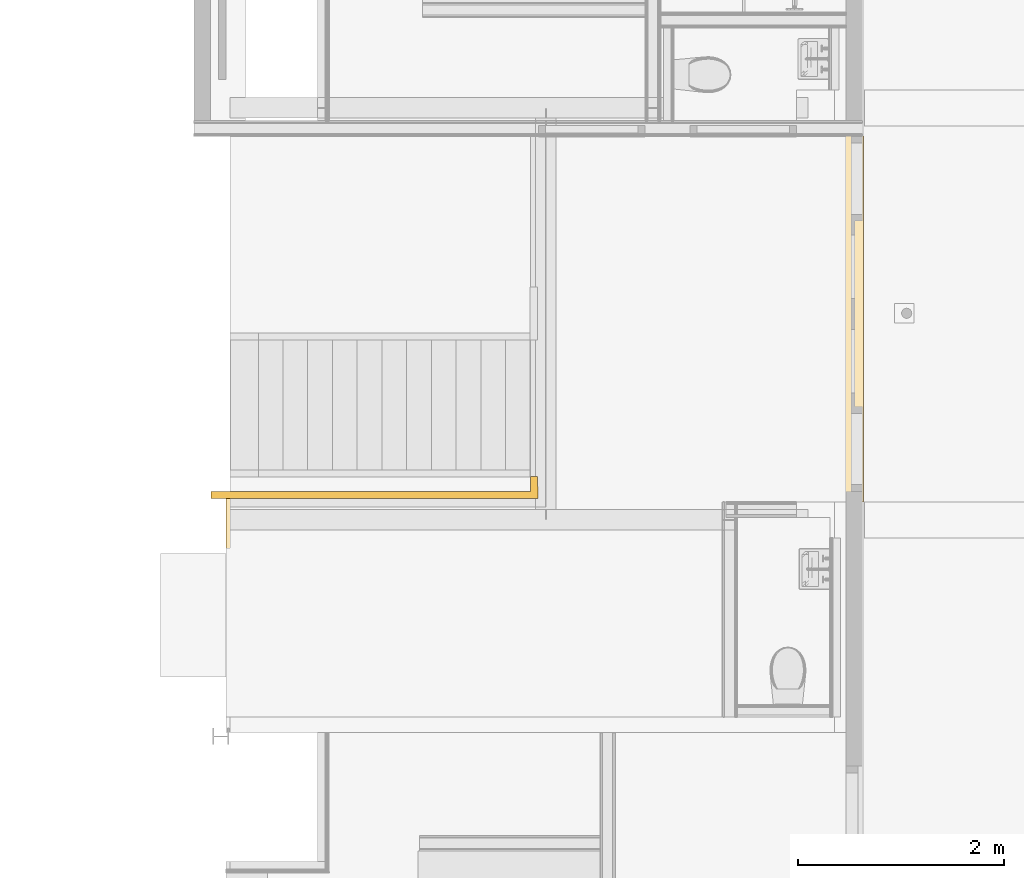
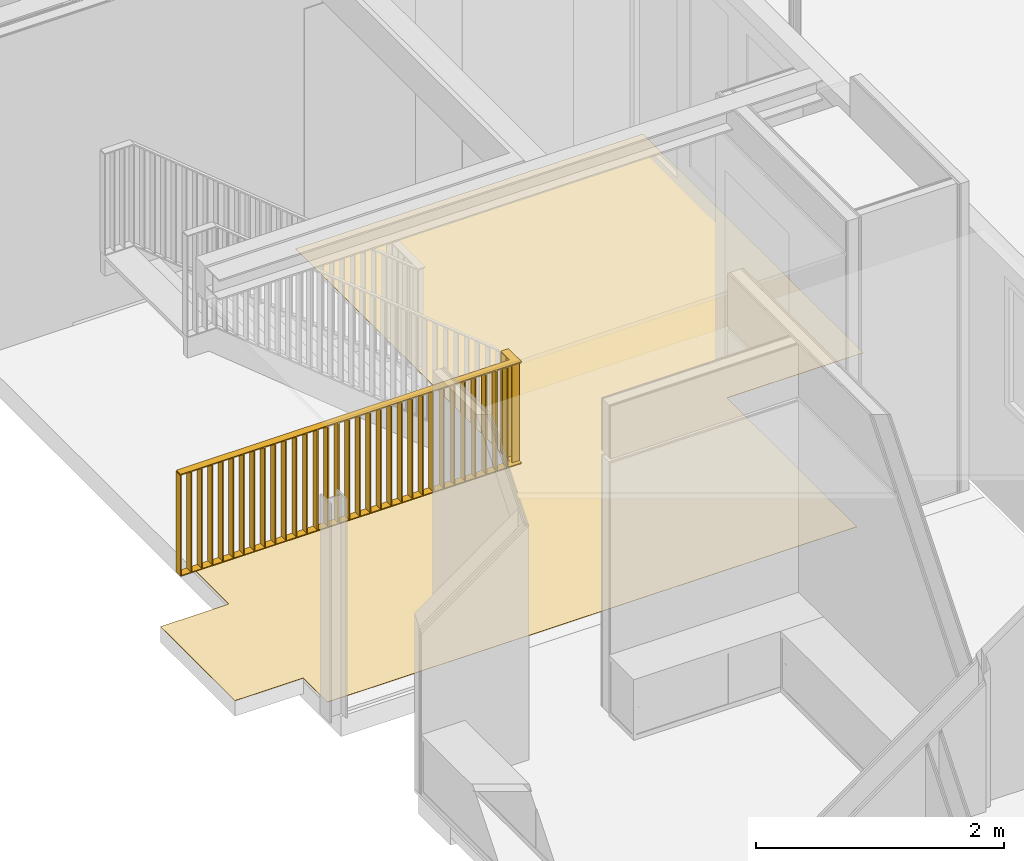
# One storey, part 23 of 35: 1 covering, 1 railing.
"""IFC2X3 building model written with IfcOpenShell, lengths in millimetres."""

from ifc_helpers import new_model, entity, si_unit, converted_unit, derived_unit, money_unit, direction, frame, origin_with_axes, place, context, subcontext, project, spatial, faceted_brep, material, material_list, type_object, element, save


model = new_model("IFC2X3")

# Units and contexts
model_context = context("Model", 3, precision=0.01, world=origin_with_axes(), true_north=direction((0.0, 1.0)))
body_context = subcontext(model_context, "Body", "Model", "MODEL_VIEW")
ifc_project = project(units=[si_unit("LENGTHUNIT", "METRE", prefix="MILLI"), si_unit("AREAUNIT", "SQUARE_METRE"), si_unit("VOLUMEUNIT", "CUBIC_METRE"), converted_unit("PLANEANGLEUNIT", "DEGREE", entity("IfcPlaneAngleMeasure", 0.0174532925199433), si_unit("PLANEANGLEUNIT", "RADIAN"), dimensions=[0, 0, 0, 0, 0, 0, 0]), money_unit("EUR"), converted_unit("TIMEUNIT", "Year", entity("IfcTimeMeasure", 31557600.0), si_unit("TIMEUNIT", "SECOND"), dimensions=[0, 0, 1, 0, 0, 0, 0]), si_unit("MASSUNIT", "GRAM", prefix="KILO"), si_unit("THERMODYNAMICTEMPERATUREUNIT", "DEGREE_CELSIUS"), si_unit("LUMINOUSINTENSITYUNIT", "LUMEN"), si_unit("ENERGYUNIT", "JOULE", prefix="MEGA"), derived_unit("THERMALCONDUCTANCEUNIT", [(si_unit("POWERUNIT", "WATT"), 1), (si_unit("LENGTHUNIT", "METRE"), -1), (si_unit("THERMODYNAMICTEMPERATUREUNIT", "KELVIN"), -1)]), derived_unit("SPECIFICHEATCAPACITYUNIT", [(si_unit("ENERGYUNIT", "JOULE"), 1), (si_unit("MASSUNIT", "GRAM", prefix="KILO"), -1), (si_unit("THERMODYNAMICTEMPERATUREUNIT", "KELVIN"), -1)]), derived_unit("MASSDENSITYUNIT", [(si_unit("MASSUNIT", "GRAM", prefix="KILO"), 1), (si_unit("VOLUMEUNIT", "CUBIC_METRE"), -1)])], contexts=[model_context])

# Site, building, storey
site_placement = place(None, origin_with_axes())
site = spatial("IfcSite", under=ifc_project, at=site_placement, Name="<site naam>", CompositionType="ELEMENT")
building_placement = place(site_placement, origin_with_axes())
building = spatial("IfcBuilding", under=site, at=building_placement, Name="<Naam gebouw>", CompositionType="ELEMENT")
storey_placement = place(building_placement, frame((0.0, 0.0, 6345.0), z_axis=(0.0, 0.0, 1.0), x_axis=(1.0, 0.0, 0.0)))
storey = spatial("IfcBuildingStorey", under=building, at=storey_placement, Name="02 2e tussenverdieping", CompositionType="ELEMENT", Elevation=6345.0)

# Railing
ifc_material_1 = material(Name="staal balustrade")
ifc_material_list = material_list([ifc_material_1, ifc_material_1, ifc_material_1, ifc_material_1, ifc_material_1, ifc_material_1, ifc_material_1, ifc_material_1, ifc_material_1, ifc_material_1, ifc_material_1, ifc_material_1, ifc_material_1, ifc_material_1, ifc_material_1, ifc_material_1, ifc_material_1, ifc_material_1, ifc_material_1, ifc_material_1, ifc_material_1, ifc_material_1, ifc_material_1, ifc_material_1, ifc_material_1, ifc_material_1, ifc_material_1, ifc_material_1, ifc_material_1, ifc_material_1, ifc_material_1, ifc_material_1, ifc_material_1, ifc_material_1, ifc_material_1, ifc_material_1, ifc_material_1, ifc_material_1, ifc_material_1])
railing_type = type_object("IfcRailingType", Name="Railing Type", PredefinedType="NOTDEFINED")
railing_placement = place(storey_placement, frame((54814.39453125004, 10255.40265548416, 0.0), z_axis=(0.0, 0.0, 1.0), x_axis=(1.0, 0.0, 0.0)))
element("IfcRailing", 1, at=railing_placement, inside=storey, type_object=railing_type, material=ifc_material_list, Name="34_Reling_", PredefinedType="NOTDEFINED", context=body_context, shape_type="Brep", body=[
    faceted_brep([(277.6979470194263, -1845.402332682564, 14.99999999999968), (347.6940240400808, -1844.661251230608, 14.99999999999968), (347.6940240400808, -1844.661251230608, 995.0000000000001), (277.6979470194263, -1845.402332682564, 995.0000000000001), (277.5920782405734, -1835.402893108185, 14.99999999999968), (347.5881552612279, -1834.661811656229, 14.99999999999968), (347.5881552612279, -1834.661811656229, 995.0000000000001), (277.5920782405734, -1835.402893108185, 995.0000000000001)], [[[0, 1, 2, 3]], [[0, 4, 5, 1]], [[1, 5, 6, 2]], [[3, 2, 6, 7]], [[4, 0, 3, 7]], [[5, 4, 7, 6]]]),
    faceted_brep([(279.5546780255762, -2020.772915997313, 15.00000000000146), (349.5507550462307, -2020.031834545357, 15.00000000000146), (349.5507550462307, -2020.031834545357, 995.0000000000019), (279.5546780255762, -2020.772915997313, 995.0000000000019), (279.4488092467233, -2010.773476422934, 15.00000000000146), (349.4448862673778, -2010.032394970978, 15.00000000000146), (349.4448862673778, -2010.032394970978, 995.0000000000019), (279.4488092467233, -2010.773476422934, 995.0000000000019)], [[[0, 1, 2, 3]], [[0, 4, 5, 1]], [[1, 5, 6, 2]], [[3, 2, 6, 7]], [[4, 0, 3, 7]], [[5, 4, 7, 6]]]),
    faceted_brep([(-2824.394382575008, -1980.402655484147, 15.00000000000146), (-2824.394382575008, -2050.402655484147, 15.00000000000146), (-2824.394382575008, -2050.402655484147, 995.0000000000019), (-2824.394382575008, -1980.402655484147, 995.0000000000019), (-2814.394382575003, -1980.402655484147, 15.00000000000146), (-2814.394382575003, -2050.402655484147, 15.00000000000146), (-2814.394382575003, -2050.402655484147, 995.0000000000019), (-2814.394382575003, -1980.402655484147, 995.0000000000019)], [[[0, 1, 2, 3]], [[0, 4, 5, 1]], [[1, 5, 6, 2]], [[3, 2, 6, 7]], [[4, 0, 3, 7]], [[5, 4, 7, 6]]]),
    faceted_brep([(277.6450126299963, -1840.402612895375, 1005.0), (277.6450126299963, -1840.402612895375, 995.0000000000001), (279.1272590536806, -1980.40265548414, 995.0000000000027), (279.1272590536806, -1980.40265548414, 1005.000000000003), (347.6410896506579, -1839.661531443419, 1005.0), (347.6410896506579, -1839.661531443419, 995.0000000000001), (349.8723052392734, -2050.40265548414, 995.0000000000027), (349.8723052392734, -2050.40265548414, 1005.000000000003)], [[[0, 1, 2, 3]], [[0, 4, 5, 1]], [[1, 5, 6, 2]], [[3, 2, 6, 7]], [[4, 0, 3, 7]], [[5, 4, 7, 6]]]),
    faceted_brep([(277.6450126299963, -1840.402612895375, 9.999999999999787), (277.6450126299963, -1840.402612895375, 0.0), (279.1272590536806, -1980.40265548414, 0.0), (279.1272590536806, -1980.40265548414, 10.00000000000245), (347.6410896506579, -1839.661531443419, 9.999999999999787), (347.6410896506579, -1839.661531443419, 0.0), (349.8723052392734, -2050.40265548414, 0.0), (349.8723052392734, -2050.40265548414, 10.00000000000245)], [[[0, 1, 2, 3]], [[0, 4, 5, 1]], [[1, 5, 6, 2]], [[3, 2, 6, 7]], [[4, 0, 3, 7]], [[5, 4, 7, 6]]]),
    faceted_brep([(278.6263125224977, -1933.087624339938, 15.00000000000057), (348.6223895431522, -1932.346542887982, 15.00000000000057), (348.6223895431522, -1932.346542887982, 995.000000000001), (278.6263125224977, -1933.087624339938, 995.000000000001), (278.5204437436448, -1923.088184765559, 15.00000000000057), (348.5165207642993, -1922.347103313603, 15.00000000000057), (348.5165207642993, -1922.347103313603, 995.000000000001), (278.5204437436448, -1923.088184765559, 995.000000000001)], [[[0, 1, 2, 3]], [[0, 4, 5, 1]], [[1, 5, 6, 2]], [[3, 2, 6, 7]], [[4, 0, 3, 7]], [[5, 4, 7, 6]]]),
    faceted_brep([(279.1272590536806, -1980.402655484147, 1005.000000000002), (279.1272590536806, -1980.402655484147, 995.0000000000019), (-2819.394382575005, -1980.402655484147, 995.0000000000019), (-2819.394382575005, -1980.402655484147, 1005.000000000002), (349.8723052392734, -2050.402655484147, 1005.000000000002), (349.8723052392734, -2050.402655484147, 995.0000000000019), (-2819.394382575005, -2050.402655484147, 995.0000000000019), (-2819.394382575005, -2050.402655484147, 1005.000000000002)], [[[0, 1, 2, 3]], [[0, 4, 5, 1]], [[1, 5, 6, 2]], [[3, 2, 6, 7]], [[4, 0, 3, 7]], [[5, 4, 7, 6]]]),
    faceted_brep([(279.1272590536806, -1980.402655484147, 10.00000000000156), (279.1272590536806, -1980.402655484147, 0.0), (-2819.394382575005, -1980.402655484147, 0.0), (-2819.394382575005, -1980.402655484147, 10.00000000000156), (349.8723052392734, -2050.402655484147, 10.00000000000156), (349.8723052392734, -2050.402655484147, 0.0), (-2819.394382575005, -2050.402655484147, 0.0), (-2819.394382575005, -2050.402655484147, 10.00000000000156)], [[[0, 1, 2, 3]], [[0, 4, 5, 1]], [[1, 5, 6, 2]], [[3, 2, 6, 7]], [[4, 0, 3, 7]], [[5, 4, 7, 6]]]),
    faceted_brep([(211.5655894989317, -1980.402655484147, 15.00000000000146), (211.5655894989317, -2050.402655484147, 15.00000000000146), (211.5655894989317, -2050.402655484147, 995.0000000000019), (211.5655894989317, -1980.402655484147, 995.0000000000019), (221.5655894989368, -1980.402655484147, 15.00000000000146), (221.5655894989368, -2050.402655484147, 15.00000000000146), (221.5655894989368, -2050.402655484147, 995.0000000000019), (221.5655894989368, -1980.402655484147, 995.0000000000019)], [[[0, 1, 2, 3]], [[0, 4, 5, 1]], [[1, 5, 6, 2]], [[3, 2, 6, 7]], [[4, 0, 3, 7]], [[5, 4, 7, 6]]]),
    faceted_brep([(113.6313968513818, -1980.402655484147, 15.00000000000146), (113.6313968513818, -2050.402655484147, 15.00000000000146), (113.6313968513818, -2050.402655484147, 995.0000000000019), (113.6313968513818, -1980.402655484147, 995.0000000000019), (123.6313968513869, -1980.402655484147, 15.00000000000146), (123.6313968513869, -2050.402655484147, 15.00000000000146), (123.6313968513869, -2050.402655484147, 995.0000000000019), (123.6313968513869, -1980.402655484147, 995.0000000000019)], [[[0, 1, 2, 3]], [[0, 4, 5, 1]], [[1, 5, 6, 2]], [[3, 2, 6, 7]], [[4, 0, 3, 7]], [[5, 4, 7, 6]]]),
    faceted_brep([(15.69720420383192, -1980.402655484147, 15.00000000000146), (15.69720420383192, -2050.402655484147, 15.00000000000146), (15.69720420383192, -2050.402655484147, 995.0000000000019), (15.69720420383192, -1980.402655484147, 995.0000000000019), (25.69720420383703, -1980.402655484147, 15.00000000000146), (25.69720420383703, -2050.402655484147, 15.00000000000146), (25.69720420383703, -2050.402655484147, 995.0000000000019), (25.69720420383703, -1980.402655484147, 995.0000000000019)], [[[0, 1, 2, 3]], [[0, 4, 5, 1]], [[1, 5, 6, 2]], [[3, 2, 6, 7]], [[4, 0, 3, 7]], [[5, 4, 7, 6]]]),
    faceted_brep([(-82.23698844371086, -1980.402655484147, 15.00000000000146), (-82.23698844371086, -2050.402655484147, 15.00000000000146), (-82.23698844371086, -2050.402655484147, 995.0000000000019), (-82.23698844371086, -1980.402655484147, 995.0000000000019), (-72.23698844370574, -1980.402655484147, 15.00000000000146), (-72.23698844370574, -2050.402655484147, 15.00000000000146), (-72.23698844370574, -2050.402655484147, 995.0000000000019), (-72.23698844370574, -1980.402655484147, 995.0000000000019)], [[[0, 1, 2, 3]], [[0, 4, 5, 1]], [[1, 5, 6, 2]], [[3, 2, 6, 7]], [[4, 0, 3, 7]], [[5, 4, 7, 6]]]),
    faceted_brep([(-180.1711810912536, -1980.402655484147, 15.00000000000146), (-180.1711810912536, -2050.402655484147, 15.00000000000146), (-180.1711810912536, -2050.402655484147, 995.0000000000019), (-180.1711810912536, -1980.402655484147, 995.0000000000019), (-170.1711810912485, -1980.402655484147, 15.00000000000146), (-170.1711810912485, -2050.402655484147, 15.00000000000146), (-170.1711810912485, -2050.402655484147, 995.0000000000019), (-170.1711810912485, -1980.402655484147, 995.0000000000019)], [[[0, 1, 2, 3]], [[0, 4, 5, 1]], [[1, 5, 6, 2]], [[3, 2, 6, 7]], [[4, 0, 3, 7]], [[5, 4, 7, 6]]]),
    faceted_brep([(-278.1053737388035, -1980.402655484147, 15.00000000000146), (-278.1053737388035, -2050.402655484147, 15.00000000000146), (-278.1053737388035, -2050.402655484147, 995.0000000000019), (-278.1053737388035, -1980.402655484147, 995.0000000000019), (-268.1053737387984, -1980.402655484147, 15.00000000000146), (-268.1053737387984, -2050.402655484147, 15.00000000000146), (-268.1053737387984, -2050.402655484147, 995.0000000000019), (-268.1053737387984, -1980.402655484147, 995.0000000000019)], [[[0, 1, 2, 3]], [[0, 4, 5, 1]], [[1, 5, 6, 2]], [[3, 2, 6, 7]], [[4, 0, 3, 7]], [[5, 4, 7, 6]]]),
    faceted_brep([(-376.0395663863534, -1980.402655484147, 15.00000000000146), (-376.0395663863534, -2050.402655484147, 15.00000000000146), (-376.0395663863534, -2050.402655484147, 995.0000000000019), (-376.0395663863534, -1980.402655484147, 995.0000000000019), (-366.0395663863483, -1980.402655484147, 15.00000000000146), (-366.0395663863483, -2050.402655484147, 15.00000000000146), (-366.0395663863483, -2050.402655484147, 995.0000000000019), (-366.0395663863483, -1980.402655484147, 995.0000000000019)], [[[0, 1, 2, 3]], [[0, 4, 5, 1]], [[1, 5, 6, 2]], [[3, 2, 6, 7]], [[4, 0, 3, 7]], [[5, 4, 7, 6]]]),
    faceted_brep([(-473.9737590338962, -1980.402655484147, 15.00000000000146), (-473.9737590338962, -2050.402655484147, 15.00000000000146), (-473.9737590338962, -2050.402655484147, 995.0000000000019), (-473.9737590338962, -1980.402655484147, 995.0000000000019), (-463.973759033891, -1980.402655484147, 15.00000000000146), (-463.973759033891, -2050.402655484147, 15.00000000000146), (-463.973759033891, -2050.402655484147, 995.0000000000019), (-463.973759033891, -1980.402655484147, 995.0000000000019)], [[[0, 1, 2, 3]], [[0, 4, 5, 1]], [[1, 5, 6, 2]], [[3, 2, 6, 7]], [[4, 0, 3, 7]], [[5, 4, 7, 6]]]),
    faceted_brep([(-571.9079516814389, -1980.402655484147, 15.00000000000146), (-571.9079516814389, -2050.402655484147, 15.00000000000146), (-571.9079516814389, -2050.402655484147, 995.0000000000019), (-571.9079516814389, -1980.402655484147, 995.0000000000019), (-561.9079516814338, -1980.402655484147, 15.00000000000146), (-561.9079516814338, -2050.402655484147, 15.00000000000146), (-561.9079516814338, -2050.402655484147, 995.0000000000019), (-561.9079516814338, -1980.402655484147, 995.0000000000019)], [[[0, 1, 2, 3]], [[0, 4, 5, 1]], [[1, 5, 6, 2]], [[3, 2, 6, 7]], [[4, 0, 3, 7]], [[5, 4, 7, 6]]]),
    faceted_brep([(-669.8421443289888, -1980.402655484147, 15.00000000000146), (-669.8421443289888, -2050.402655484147, 15.00000000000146), (-669.8421443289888, -2050.402655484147, 995.0000000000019), (-669.8421443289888, -1980.402655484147, 995.0000000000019), (-659.8421443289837, -1980.402655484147, 15.00000000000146), (-659.8421443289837, -2050.402655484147, 15.00000000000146), (-659.8421443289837, -2050.402655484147, 995.0000000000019), (-659.8421443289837, -1980.402655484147, 995.0000000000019)], [[[0, 1, 2, 3]], [[0, 4, 5, 1]], [[1, 5, 6, 2]], [[3, 2, 6, 7]], [[4, 0, 3, 7]], [[5, 4, 7, 6]]]),
    faceted_brep([(-767.7763369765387, -1980.402655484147, 15.00000000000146), (-767.7763369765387, -2050.402655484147, 15.00000000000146), (-767.7763369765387, -2050.402655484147, 995.0000000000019), (-767.7763369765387, -1980.402655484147, 995.0000000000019), (-757.7763369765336, -1980.402655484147, 15.00000000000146), (-757.7763369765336, -2050.402655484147, 15.00000000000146), (-757.7763369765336, -2050.402655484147, 995.0000000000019), (-757.7763369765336, -1980.402655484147, 995.0000000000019)], [[[0, 1, 2, 3]], [[0, 4, 5, 1]], [[1, 5, 6, 2]], [[3, 2, 6, 7]], [[4, 0, 3, 7]], [[5, 4, 7, 6]]]),
    faceted_brep([(-865.7105296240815, -1980.402655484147, 15.00000000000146), (-865.7105296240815, -2050.402655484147, 15.00000000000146), (-865.7105296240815, -2050.402655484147, 995.0000000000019), (-865.7105296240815, -1980.402655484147, 995.0000000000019), (-855.7105296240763, -1980.402655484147, 15.00000000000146), (-855.7105296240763, -2050.402655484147, 15.00000000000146), (-855.7105296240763, -2050.402655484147, 995.0000000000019), (-855.7105296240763, -1980.402655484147, 995.0000000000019)], [[[0, 1, 2, 3]], [[0, 4, 5, 1]], [[1, 5, 6, 2]], [[3, 2, 6, 7]], [[4, 0, 3, 7]], [[5, 4, 7, 6]]]),
    faceted_brep([(-963.6447222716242, -1980.402655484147, 15.00000000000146), (-963.6447222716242, -2050.402655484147, 15.00000000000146), (-963.6447222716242, -2050.402655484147, 995.0000000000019), (-963.6447222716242, -1980.402655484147, 995.0000000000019), (-953.6447222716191, -1980.402655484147, 15.00000000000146), (-953.6447222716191, -2050.402655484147, 15.00000000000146), (-953.6447222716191, -2050.402655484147, 995.0000000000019), (-953.6447222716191, -1980.402655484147, 995.0000000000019)], [[[0, 1, 2, 3]], [[0, 4, 5, 1]], [[1, 5, 6, 2]], [[3, 2, 6, 7]], [[4, 0, 3, 7]], [[5, 4, 7, 6]]]),
    faceted_brep([(-1061.578914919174, -1980.402655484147, 15.00000000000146), (-1061.578914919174, -2050.402655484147, 15.00000000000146), (-1061.578914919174, -2050.402655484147, 995.0000000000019), (-1061.578914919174, -1980.402655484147, 995.0000000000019), (-1051.578914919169, -1980.402655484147, 15.00000000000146), (-1051.578914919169, -2050.402655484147, 15.00000000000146), (-1051.578914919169, -2050.402655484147, 995.0000000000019), (-1051.578914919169, -1980.402655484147, 995.0000000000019)], [[[0, 1, 2, 3]], [[0, 4, 5, 1]], [[1, 5, 6, 2]], [[3, 2, 6, 7]], [[4, 0, 3, 7]], [[5, 4, 7, 6]]]),
    faceted_brep([(-1159.513107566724, -1980.402655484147, 15.00000000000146), (-1159.513107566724, -2050.402655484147, 15.00000000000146), (-1159.513107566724, -2050.402655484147, 995.0000000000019), (-1159.513107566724, -1980.402655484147, 995.0000000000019), (-1149.513107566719, -1980.402655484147, 15.00000000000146), (-1149.513107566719, -2050.402655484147, 15.00000000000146), (-1149.513107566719, -2050.402655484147, 995.0000000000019), (-1149.513107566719, -1980.402655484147, 995.0000000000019)], [[[0, 1, 2, 3]], [[0, 4, 5, 1]], [[1, 5, 6, 2]], [[3, 2, 6, 7]], [[4, 0, 3, 7]], [[5, 4, 7, 6]]]),
    faceted_brep([(-1257.447300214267, -1980.402655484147, 15.00000000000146), (-1257.447300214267, -2050.402655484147, 15.00000000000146), (-1257.447300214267, -2050.402655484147, 995.0000000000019), (-1257.447300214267, -1980.402655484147, 995.0000000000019), (-1247.447300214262, -1980.402655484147, 15.00000000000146), (-1247.447300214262, -2050.402655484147, 15.00000000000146), (-1247.447300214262, -2050.402655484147, 995.0000000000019), (-1247.447300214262, -1980.402655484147, 995.0000000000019)], [[[0, 1, 2, 3]], [[0, 4, 5, 1]], [[1, 5, 6, 2]], [[3, 2, 6, 7]], [[4, 0, 3, 7]], [[5, 4, 7, 6]]]),
    faceted_brep([(-1355.381492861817, -1980.402655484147, 15.00000000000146), (-1355.381492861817, -2050.402655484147, 15.00000000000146), (-1355.381492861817, -2050.402655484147, 995.0000000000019), (-1355.381492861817, -1980.402655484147, 995.0000000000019), (-1345.381492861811, -1980.402655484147, 15.00000000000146), (-1345.381492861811, -2050.402655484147, 15.00000000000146), (-1345.381492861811, -2050.402655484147, 995.0000000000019), (-1345.381492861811, -1980.402655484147, 995.0000000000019)], [[[0, 1, 2, 3]], [[0, 4, 5, 1]], [[1, 5, 6, 2]], [[3, 2, 6, 7]], [[4, 0, 3, 7]], [[5, 4, 7, 6]]]),
    faceted_brep([(-1453.315685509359, -1980.402655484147, 15.00000000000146), (-1453.315685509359, -2050.402655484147, 15.00000000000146), (-1453.315685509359, -2050.402655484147, 995.0000000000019), (-1453.315685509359, -1980.402655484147, 995.0000000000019), (-1443.315685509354, -1980.402655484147, 15.00000000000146), (-1443.315685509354, -2050.402655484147, 15.00000000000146), (-1443.315685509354, -2050.402655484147, 995.0000000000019), (-1443.315685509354, -1980.402655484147, 995.0000000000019)], [[[0, 1, 2, 3]], [[0, 4, 5, 1]], [[1, 5, 6, 2]], [[3, 2, 6, 7]], [[4, 0, 3, 7]], [[5, 4, 7, 6]]]),
    faceted_brep([(-1551.249878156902, -1980.402655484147, 15.00000000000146), (-1551.249878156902, -2050.402655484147, 15.00000000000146), (-1551.249878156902, -2050.402655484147, 995.0000000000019), (-1551.249878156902, -1980.402655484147, 995.0000000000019), (-1541.249878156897, -1980.402655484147, 15.00000000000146), (-1541.249878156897, -2050.402655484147, 15.00000000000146), (-1541.249878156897, -2050.402655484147, 995.0000000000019), (-1541.249878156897, -1980.402655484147, 995.0000000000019)], [[[0, 1, 2, 3]], [[0, 4, 5, 1]], [[1, 5, 6, 2]], [[3, 2, 6, 7]], [[4, 0, 3, 7]], [[5, 4, 7, 6]]]),
    faceted_brep([(-1649.184070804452, -1980.402655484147, 15.00000000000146), (-1649.184070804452, -2050.402655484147, 15.00000000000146), (-1649.184070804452, -2050.402655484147, 995.0000000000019), (-1649.184070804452, -1980.402655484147, 995.0000000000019), (-1639.184070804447, -1980.402655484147, 15.00000000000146), (-1639.184070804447, -2050.402655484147, 15.00000000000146), (-1639.184070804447, -2050.402655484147, 995.0000000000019), (-1639.184070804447, -1980.402655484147, 995.0000000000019)], [[[0, 1, 2, 3]], [[0, 4, 5, 1]], [[1, 5, 6, 2]], [[3, 2, 6, 7]], [[4, 0, 3, 7]], [[5, 4, 7, 6]]]),
    faceted_brep([(-1747.118263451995, -1980.402655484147, 15.00000000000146), (-1747.118263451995, -2050.402655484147, 15.00000000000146), (-1747.118263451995, -2050.402655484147, 995.0000000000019), (-1747.118263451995, -1980.402655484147, 995.0000000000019), (-1737.11826345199, -1980.402655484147, 15.00000000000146), (-1737.11826345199, -2050.402655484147, 15.00000000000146), (-1737.11826345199, -2050.402655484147, 995.0000000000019), (-1737.11826345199, -1980.402655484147, 995.0000000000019)], [[[0, 1, 2, 3]], [[0, 4, 5, 1]], [[1, 5, 6, 2]], [[3, 2, 6, 7]], [[4, 0, 3, 7]], [[5, 4, 7, 6]]]),
    faceted_brep([(-1845.052456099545, -1980.402655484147, 15.00000000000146), (-1845.052456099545, -2050.402655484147, 15.00000000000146), (-1845.052456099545, -2050.402655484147, 995.0000000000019), (-1845.052456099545, -1980.402655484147, 995.0000000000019), (-1835.05245609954, -1980.402655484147, 15.00000000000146), (-1835.05245609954, -2050.402655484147, 15.00000000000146), (-1835.05245609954, -2050.402655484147, 995.0000000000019), (-1835.05245609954, -1980.402655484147, 995.0000000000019)], [[[0, 1, 2, 3]], [[0, 4, 5, 1]], [[1, 5, 6, 2]], [[3, 2, 6, 7]], [[4, 0, 3, 7]], [[5, 4, 7, 6]]]),
    faceted_brep([(-1942.986648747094, -1980.402655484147, 15.00000000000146), (-1942.986648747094, -2050.402655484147, 15.00000000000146), (-1942.986648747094, -2050.402655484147, 995.0000000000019), (-1942.986648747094, -1980.402655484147, 995.0000000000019), (-1932.986648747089, -1980.402655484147, 15.00000000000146), (-1932.986648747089, -2050.402655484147, 15.00000000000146), (-1932.986648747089, -2050.402655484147, 995.0000000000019), (-1932.986648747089, -1980.402655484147, 995.0000000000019)], [[[0, 1, 2, 3]], [[0, 4, 5, 1]], [[1, 5, 6, 2]], [[3, 2, 6, 7]], [[4, 0, 3, 7]], [[5, 4, 7, 6]]]),
    faceted_brep([(-2040.920841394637, -1980.402655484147, 15.00000000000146), (-2040.920841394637, -2050.402655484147, 15.00000000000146), (-2040.920841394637, -2050.402655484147, 995.0000000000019), (-2040.920841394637, -1980.402655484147, 995.0000000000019), (-2030.920841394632, -1980.402655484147, 15.00000000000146), (-2030.920841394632, -2050.402655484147, 15.00000000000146), (-2030.920841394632, -2050.402655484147, 995.0000000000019), (-2030.920841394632, -1980.402655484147, 995.0000000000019)], [[[0, 1, 2, 3]], [[0, 4, 5, 1]], [[1, 5, 6, 2]], [[3, 2, 6, 7]], [[4, 0, 3, 7]], [[5, 4, 7, 6]]]),
    faceted_brep([(-2138.85503404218, -1980.402655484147, 15.00000000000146), (-2138.85503404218, -2050.402655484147, 15.00000000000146), (-2138.85503404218, -2050.402655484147, 995.0000000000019), (-2138.85503404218, -1980.402655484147, 995.0000000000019), (-2128.855034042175, -1980.402655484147, 15.00000000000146), (-2128.855034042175, -2050.402655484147, 15.00000000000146), (-2128.855034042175, -2050.402655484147, 995.0000000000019), (-2128.855034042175, -1980.402655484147, 995.0000000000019)], [[[0, 1, 2, 3]], [[0, 4, 5, 1]], [[1, 5, 6, 2]], [[3, 2, 6, 7]], [[4, 0, 3, 7]], [[5, 4, 7, 6]]]),
    faceted_brep([(-2236.78922668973, -1980.402655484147, 15.00000000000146), (-2236.78922668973, -2050.402655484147, 15.00000000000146), (-2236.78922668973, -2050.402655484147, 995.0000000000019), (-2236.78922668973, -1980.402655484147, 995.0000000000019), (-2226.789226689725, -1980.402655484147, 15.00000000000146), (-2226.789226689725, -2050.402655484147, 15.00000000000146), (-2226.789226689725, -2050.402655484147, 995.0000000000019), (-2226.789226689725, -1980.402655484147, 995.0000000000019)], [[[0, 1, 2, 3]], [[0, 4, 5, 1]], [[1, 5, 6, 2]], [[3, 2, 6, 7]], [[4, 0, 3, 7]], [[5, 4, 7, 6]]]),
    faceted_brep([(-2334.72341933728, -1980.402655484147, 15.00000000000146), (-2334.72341933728, -2050.402655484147, 15.00000000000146), (-2334.72341933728, -2050.402655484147, 995.0000000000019), (-2334.72341933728, -1980.402655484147, 995.0000000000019), (-2324.723419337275, -1980.402655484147, 15.00000000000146), (-2324.723419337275, -2050.402655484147, 15.00000000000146), (-2324.723419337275, -2050.402655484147, 995.0000000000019), (-2324.723419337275, -1980.402655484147, 995.0000000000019)], [[[0, 1, 2, 3]], [[0, 4, 5, 1]], [[1, 5, 6, 2]], [[3, 2, 6, 7]], [[4, 0, 3, 7]], [[5, 4, 7, 6]]]),
    faceted_brep([(-2432.657611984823, -1980.402655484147, 15.00000000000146), (-2432.657611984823, -2050.402655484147, 15.00000000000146), (-2432.657611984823, -2050.402655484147, 995.0000000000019), (-2432.657611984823, -1980.402655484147, 995.0000000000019), (-2422.657611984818, -1980.402655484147, 15.00000000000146), (-2422.657611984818, -2050.402655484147, 15.00000000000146), (-2422.657611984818, -2050.402655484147, 995.0000000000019), (-2422.657611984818, -1980.402655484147, 995.0000000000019)], [[[0, 1, 2, 3]], [[0, 4, 5, 1]], [[1, 5, 6, 2]], [[3, 2, 6, 7]], [[4, 0, 3, 7]], [[5, 4, 7, 6]]]),
    faceted_brep([(-2530.591804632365, -1980.402655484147, 15.00000000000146), (-2530.591804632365, -2050.402655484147, 15.00000000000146), (-2530.591804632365, -2050.402655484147, 995.0000000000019), (-2530.591804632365, -1980.402655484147, 995.0000000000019), (-2520.59180463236, -1980.402655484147, 15.00000000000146), (-2520.59180463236, -2050.402655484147, 15.00000000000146), (-2520.59180463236, -2050.402655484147, 995.0000000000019), (-2520.59180463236, -1980.402655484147, 995.0000000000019)], [[[0, 1, 2, 3]], [[0, 4, 5, 1]], [[1, 5, 6, 2]], [[3, 2, 6, 7]], [[4, 0, 3, 7]], [[5, 4, 7, 6]]]),
    faceted_brep([(-2628.525997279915, -1980.402655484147, 15.00000000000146), (-2628.525997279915, -2050.402655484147, 15.00000000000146), (-2628.525997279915, -2050.402655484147, 995.0000000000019), (-2628.525997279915, -1980.402655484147, 995.0000000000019), (-2618.52599727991, -1980.402655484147, 15.00000000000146), (-2618.52599727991, -2050.402655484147, 15.00000000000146), (-2618.52599727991, -2050.402655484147, 995.0000000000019), (-2618.52599727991, -1980.402655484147, 995.0000000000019)], [[[0, 1, 2, 3]], [[0, 4, 5, 1]], [[1, 5, 6, 2]], [[3, 2, 6, 7]], [[4, 0, 3, 7]], [[5, 4, 7, 6]]]),
    faceted_brep([(-2726.460189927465, -1980.402655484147, 15.00000000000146), (-2726.460189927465, -2050.402655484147, 15.00000000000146), (-2726.460189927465, -2050.402655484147, 995.0000000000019), (-2726.460189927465, -1980.402655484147, 995.0000000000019), (-2716.46018992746, -1980.402655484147, 15.00000000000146), (-2716.46018992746, -2050.402655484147, 15.00000000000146), (-2716.46018992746, -2050.402655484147, 995.0000000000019), (-2716.46018992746, -1980.402655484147, 995.0000000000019)], [[[0, 1, 2, 3]], [[0, 4, 5, 1]], [[1, 5, 6, 2]], [[3, 2, 6, 7]], [[4, 0, 3, 7]], [[5, 4, 7, 6]]]),
])

# Covering
ifc_material_2 = material(Name="Vinyl type 01a")
covering_type = type_object("IfcCoveringType", Name="VA-01a 3", PredefinedType="CEILING")
covering_placement = place(storey_placement, frame((58324.99998858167, 11725.00000000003, 0.0), z_axis=(0.0, 0.0, 1.0), x_axis=(1.0, 0.0, 0.0)))
element("IfcCovering", 2, at=covering_placement, inside=storey, type_object=covering_type, material=ifc_material_2, Name="43_Vloer_VA-01a", PredefinedType="CEILING", context=body_context, shape_type="Brep", body=[
    faceted_brep([(0.0, 0.0, 3.000000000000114), (0.0, 0.0, 0.0), (-3230.378238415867, 0.0, 0.0), (-3230.378238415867, 0.0, 3.000000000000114), (0.0, -3550.000000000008, 3.000000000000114), (0.0, -3550.000000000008, 0.0), (-1267.217143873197, -3550.000000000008, 0.0), (-1267.217143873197, -5640.000000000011, 0.0), (-6190.000001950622, -5640.000000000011, 0.0), (-6189.999987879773, -5250.000011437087, 0.0), (-6823.999998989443, -5249.999988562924, 0.0), (-6823.99995569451, -4049.999988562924, 0.0), (-6189.999944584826, -4050.000011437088, 0.0), (-6189.999922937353, -3449.999903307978, 0.0), (-3230.378159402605, -3450.000010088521, 0.0), (-3230.378159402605, -3450.000010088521, 3.000000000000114), (-6189.999922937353, -3449.999903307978, 3.000000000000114), (-6189.999944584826, -4050.000011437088, 3.000000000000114), (-6823.99995569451, -4049.999988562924, 3.000000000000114), (-6823.999998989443, -5249.999988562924, 3.000000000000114), (-6189.999987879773, -5250.000011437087, 3.000000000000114), (-6190.000001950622, -5640.000000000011, 3.000000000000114), (-1267.217143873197, -5640.000000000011, 3.000000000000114), (-1267.217143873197, -3550.000000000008, 3.000000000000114)], [[[0, 1, 2, 3]], [[4, 5, 1, 0]], [[2, 1, 5, 6, 7, 8, 9, 10, 11, 12, 13, 14]], [[3, 2, 14, 15]], [[4, 0, 3, 15, 16, 17, 18, 19, 20, 21, 22, 23]], [[23, 6, 5, 4]], [[22, 7, 6, 23]], [[21, 8, 7, 22]], [[20, 9, 8, 21]], [[19, 10, 9, 20]], [[18, 11, 10, 19]], [[17, 12, 11, 18]], [[16, 13, 12, 17]], [[15, 14, 13, 16]]]),
])

save(model, "model.ifc")
